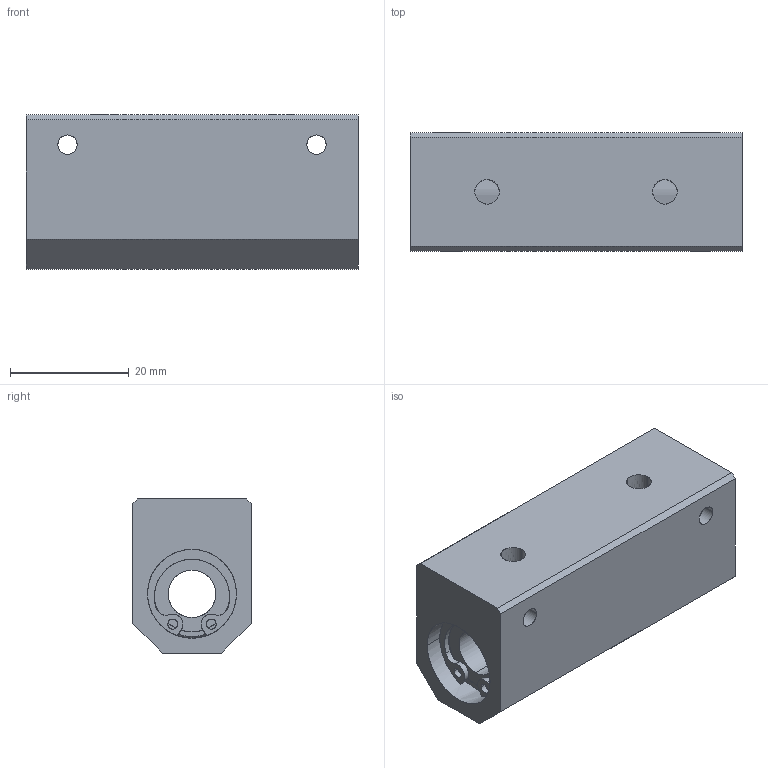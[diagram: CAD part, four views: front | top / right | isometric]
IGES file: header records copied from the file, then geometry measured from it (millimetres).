
Global section: file name: No Iges File Name specified; native system: AutoDesk Inventor R11.0; preprocessor: AutoDesk Inventor Iges Exporter R11.0; author: No Author specified; organization: No Organization specified; date: 20111024.132731; units: millimetre
Bounding box: 56 x 20 x 26 mm (x, y, z)
Surface area: 8972.2 mm2 (no closed solid volume)
Topology: 0 solids, 0 shells, 122 faces, 944 edges, 944 vertices
Faces by surface type: bspline 122
